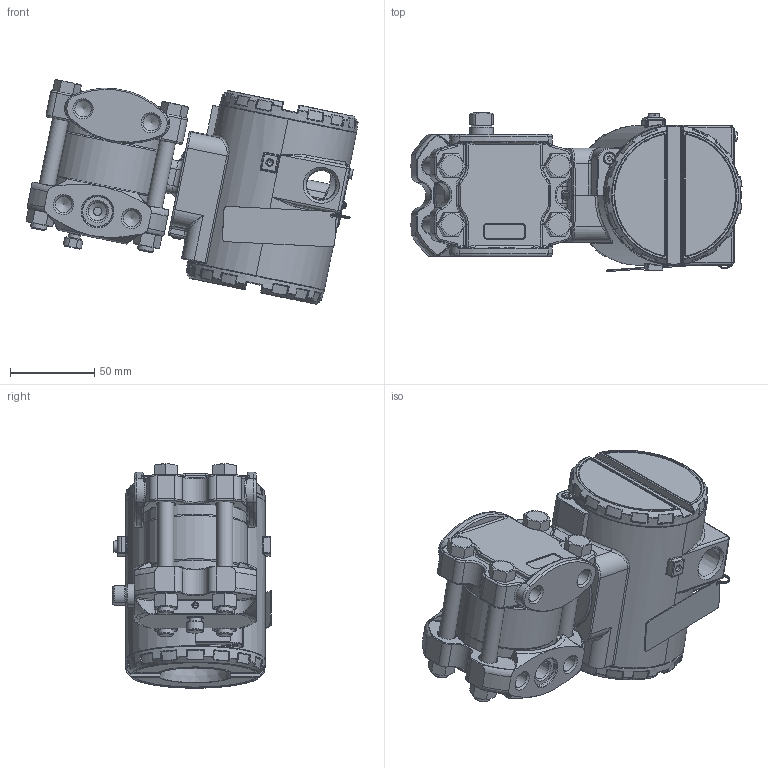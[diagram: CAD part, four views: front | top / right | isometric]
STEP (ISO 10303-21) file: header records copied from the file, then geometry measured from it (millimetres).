
FILE_DESCRIPTION(/* description */ (''),/* implementation_level */ '2;1');
FILE_NAME(/* name */ 'F:\Area\Desenvolvimento_2\Projects\Sensor\projetos\LD30X\montagens 3d - clientes\LD30XM5 1-4NPT Monel purga abaixo.stp',/* time_stamp */ '2023-01-27T10:25:07-03:00',/* author */ ('inventor02'),/* organization */ (''),/* preprocessor_version */ 'ST-DEVELOPER v17',/* originating_system */ 'Autodesk Inventor 2019',/* authorisation */ '');
FILE_SCHEMA (('CONFIG_CONTROL_DESIGN'));
Length unit declared in the file: millimetre
Products named in the file (30): LD30XM5 1-4NPT Monel purga abaixo; manométrico FX5 monel purga abaixo; involucro fx5 apos a usinagem final; 081-C-0500-10 monel barra 7-16 purga M8; 096-C-0014-13 manom reforçado; bujao 1-4NPT; Sangria; Paraf. 3-8 x 16 UNC; Porca 3-8 x 16 UNC; carcaça vazia com tampas e plaqueta; carcaça LD inox sem letras; Subconjunto plaqueta 300; Plaqueta transmissor; Parafuso da Plaqueta; Rebite da Plaqueta; 096-A-0169-03; 101-A-0502-01; Chapa aterramento externo; ISO 1207 - M4 x 8; DIN 915 - M6 x 10; ANSI B18.3.1M - M4x0,7 x 8; Subconjunto tampa com visor aluminio; tampa pintada; VIDRO DO VISOR; oring 41x1 vidro tampa; Trava do vidro da tampa com visor; trava do vidro VH256; Subconjunto tampa sem visor-aluminio; tampa cega 300 pintada p0; 00034775-0
Assembly tree (37 placements, depth 4):
  LD30XM5 1-4NPT Monel purga abaixo
    manométrico FX5 monel purga abaixo
      involucro fx5 apos a usinagem final
      081-C-0500-10 monel barra 7-16 purga M8
      096-C-0014-13 manom reforçado
      bujao 1-4NPT
      Sangria
      Paraf. 3-8 x 16 UNC  x4
      Porca 3-8 x 16 UNC  x4
    carcaça vazia com tampas e plaqueta
      carcaça LD inox sem letras
      Subconjunto plaqueta 300
        Plaqueta transmissor
        Parafuso da Plaqueta
        Rebite da Plaqueta
        096-A-0169-03
        101-A-0502-01
      Chapa aterramento externo
      ISO 1207 - M4 x 8
      DIN 915 - M6 x 10
      ANSI B18.3.1M - M4x0,7 x 8  x2
      Subconjunto tampa com visor aluminio
        tampa pintada
        VIDRO DO VISOR
        oring 41x1 vidro tampa
        Trava do vidro da tampa com visor
        trava do vidro VH256
        00034775-0
      Subconjunto tampa sem visor-aluminio
        tampa cega 300 pintada p0
        00034775-0
Bounding box: 197.46 x 94.6 x 133.4 mm (x, y, z)
Volume: 614278.1 mm3; surface area: 232243.4 mm2
Topology: 32 solids, 32 shells, 2321 faces, 5624 edges, 3334 vertices
Faces by surface type: bspline 588, cylinder 547, plane 456, torus 393, cone 230, sphere 107
Full cylindrical faces by diameter (mm): 2 x2, 2.1 x2, 2.459 x5, 2.642 x1, 2.7 x1, 3 x3, 3.242 x4, 3.5 x4, 3.571 x1, 4 x4, 4.3 x1, 4.4 x1, 4.917 x1, 5 x2, 5.5 x1, 6 x2, 6.647 x1, 7 x5, 7.087 x2, 7.6 x2, 7.798 x4, 8 x1, 8.7 x2, 9.525 x4, 9.728 x8, 10.5 x8, 10.719 x2, 12 x1, 13.8 x1, 14 x1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
Entity records: 82917 total; most frequent: CARTESIAN_POINT 32074, ORIENTED_EDGE 10658, DIRECTION 10248, EDGE_CURVE 5329, AXIS2_PLACEMENT_3D 4502, VERTEX_POINT 3200, CIRCLE 2672, EDGE_LOOP 2339
